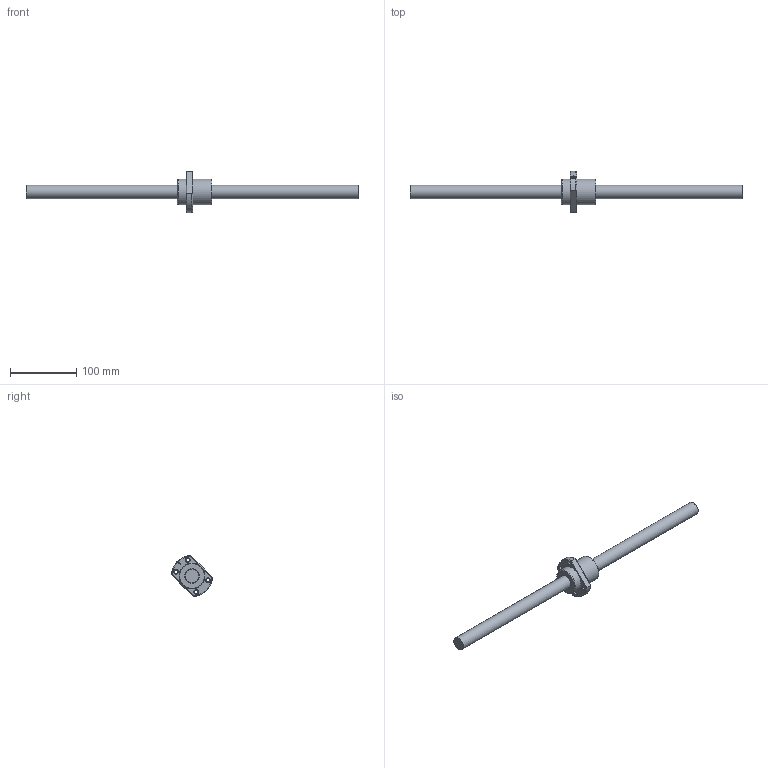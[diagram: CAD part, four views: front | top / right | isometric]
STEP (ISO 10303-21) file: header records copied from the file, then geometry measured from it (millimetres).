
FILE_DESCRIPTION (( 'STEP AP203' ), '1' );
FILE_NAME ('SFYA02020-3.6.step', '2024-05-22T07:51:38', ( '' ), ( '' ), 'SwSTEP 2.0', 'SolidWorks 2022', '' );
FILE_SCHEMA (( 'CONFIG_CONTROL_DESIGN' ));
Length unit declared in the file: millimetre
Products named in the file (1): SFYA02020-3.6
Bounding box: 500 x 61.88 x 61.88 mm (x, y, z)
Volume: 209215.2 mm3; surface area: 47020.5 mm2
Topology: 2 solids, 2 shells, 51 faces, 128 edges, 83 vertices
Faces by surface type: cylinder 18, plane 13, cone 9, torus 6, bspline 5
Full cylindrical faces by diameter (mm): 3.8 x1, 5 x6, 5.5 x4, 20 x1, 22.1 x1, 39 x2
Entity records: 3028 total; most frequent: CARTESIAN_POINT 2067, DIRECTION 170, ORIENTED_EDGE 156, EDGE_LOOP 80, EDGE_CURVE 78, AXIS2_PLACEMENT_3D 77, VERTEX_POINT 62, FACE_OUTER_BOUND 57
